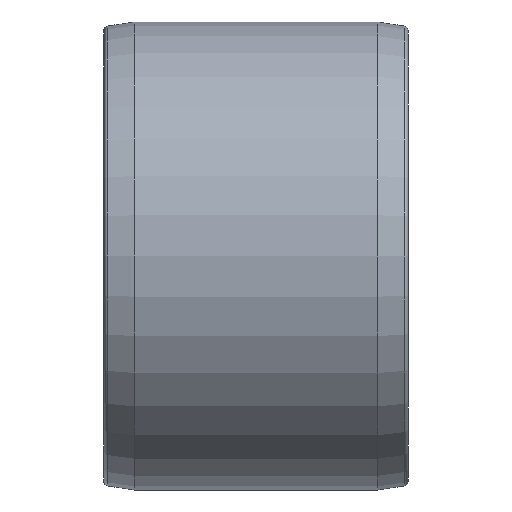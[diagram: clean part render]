
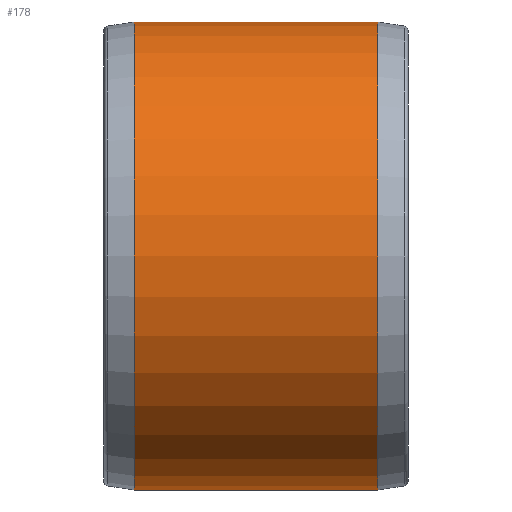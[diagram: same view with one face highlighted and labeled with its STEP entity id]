
A CAD part, front view. The second image highlights one B-rep face of the part: STEP entity #178.
In plain terms, the highlighted cylindrical face has radius 20 mm (diameter 40 mm), a full revolution.
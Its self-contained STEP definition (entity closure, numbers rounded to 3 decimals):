
#20=CYLINDRICAL_SURFACE('',#210,20.);
#38=FACE_BOUND('',#82,.T.);
#53=FACE_OUTER_BOUND('',#81,.T.);
#81=EDGE_LOOP('',(#156));
#82=EDGE_LOOP('',(#157));
#92=CIRCLE('',#196,20.);
#98=CIRCLE('',#207,20.);
#107=VERTEX_POINT('',#296);
#113=VERTEX_POINT('',#313);
#122=EDGE_CURVE('',#107,#107,#92,.T.);
#128=EDGE_CURVE('',#113,#113,#98,.T.);
#156=ORIENTED_EDGE('',*,*,#122,.F.);
#157=ORIENTED_EDGE('',*,*,#128,.F.);
#178=ADVANCED_FACE('',(#53,#38),#20,.T.);
#196=AXIS2_PLACEMENT_3D('',#297,#242,#243);
#207=AXIS2_PLACEMENT_3D('',#314,#264,#265);
#210=AXIS2_PLACEMENT_3D('',#318,#270,#271);
#242=DIRECTION('center_axis',(1.,0.,0.));
#243=DIRECTION('ref_axis',(0.,0.,-1.));
#264=DIRECTION('center_axis',(-1.,0.,0.));
#265=DIRECTION('ref_axis',(0.,-1.,0.));
#270=DIRECTION('center_axis',(1.,0.,0.));
#271=DIRECTION('ref_axis',(0.,1.,0.));
#296=CARTESIAN_POINT('',(-2.6,20.,0.));
#297=CARTESIAN_POINT('Origin',(-2.6,0.,0.));
#313=CARTESIAN_POINT('',(-23.4,20.,0.));
#314=CARTESIAN_POINT('Origin',(-23.4,0.,0.));
#318=CARTESIAN_POINT('Origin',(-14.3,0.,0.));
